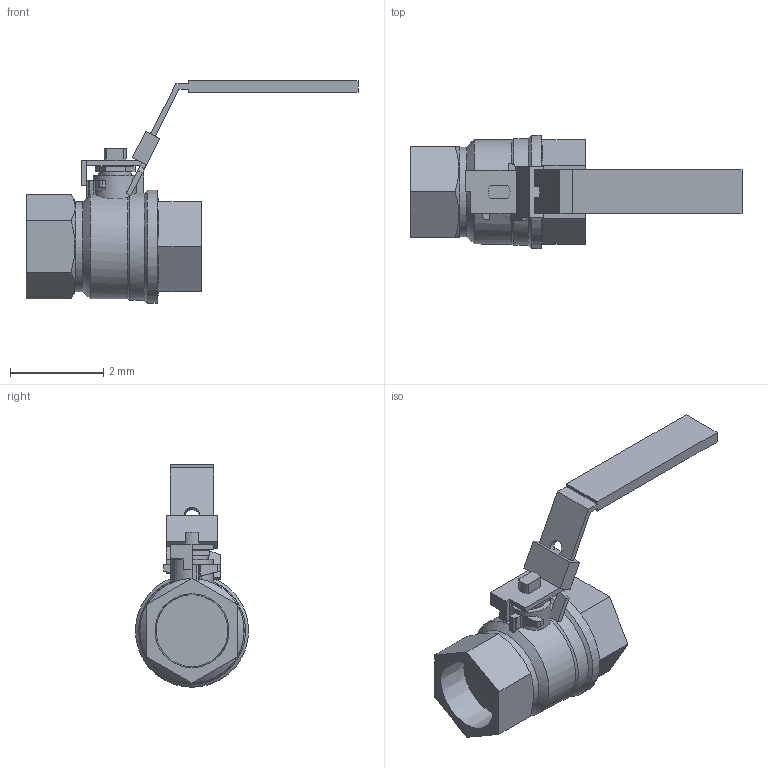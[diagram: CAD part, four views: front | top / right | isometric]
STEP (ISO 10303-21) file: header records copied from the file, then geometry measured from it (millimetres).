
FILE_DESCRIPTION(('Open CASCADE Model'),'2;1');
FILE_NAME('Open CASCADE Shape Model','2022-07-13T11:22:28',('Author'),( 'Open CASCADE'),'Open CASCADE STEP processor 7.3','Open CASCADE 7.3' ,'Unknown');
FILE_SCHEMA(('AUTOMOTIVE_DESIGN { 1 0 10303 214 1 1 1 1 }'));
Length unit declared in the file: millimetre
Products named in the file (1): Open CASCADE STEP translator 7.3 1
Bounding box: 7.11 x 2.42 x 4.76 mm (x, y, z)
Volume: 12.6 mm3; surface area: 62.2 mm2
Topology: 1 solids, 1 shells, 119 faces, 333 edges, 220 vertices
Faces by surface type: plane 92, cylinder 20, cone 7
Full cylindrical faces by diameter (mm): 0.495 x1, 0.5 x1, 0.688 x1, 1.92 x1, 2.29 x1, 2.422 x1
Entity records: 9397 total; most frequent: CARTESIAN_POINT 2900, DIRECTION 1164, LINE 796, VECTOR 796, ORIENTED_EDGE 666, PCURVE 666, DEFINITIONAL_REPRESENTATION 666, EDGE_CURVE 333
